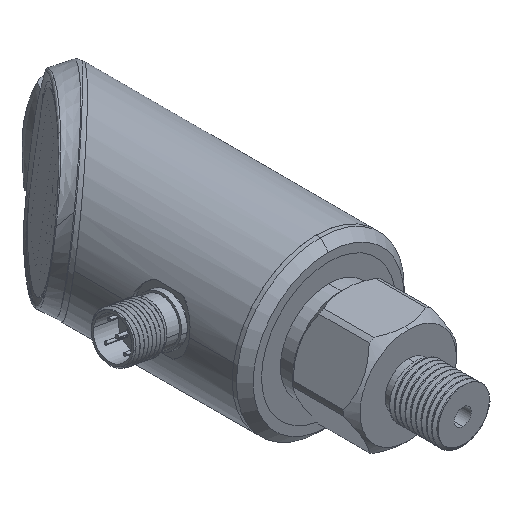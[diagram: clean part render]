
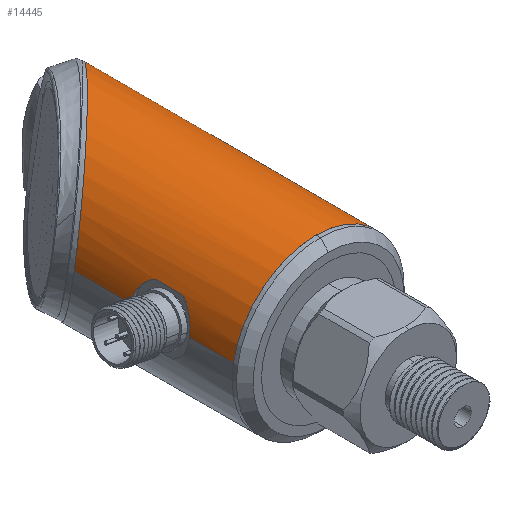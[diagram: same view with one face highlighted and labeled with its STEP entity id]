
A CAD part, isometric view. The second image highlights one B-rep face of the part: STEP entity #14445.
In plain terms, the highlighted cylindrical face has radius 20 mm (diameter 40 mm), a partial arc.
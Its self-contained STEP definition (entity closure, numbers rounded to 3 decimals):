
#92 = CARTESIAN_POINT ( 'NONE',  ( 19.685, 59., -42.45 ) ) ;
#146 = EDGE_CURVE ( 'NONE', #11824, #15104, #11581, .T. ) ;
#189 = DIRECTION ( 'NONE',  ( 0., 1., 0. ) ) ;
#226 = CARTESIAN_POINT ( 'NONE',  ( -19.716, 69.5, -35.55 ) ) ;
#707 = CARTESIAN_POINT ( 'NONE',  ( -19.453, 69.614, -34.278 ) ) ;
#977 = CARTESIAN_POINT ( 'NONE',  ( -17.975, 80.772, -30.189 ) ) ;
#1428 = CARTESIAN_POINT ( 'NONE',  ( 19.685, 137., -42.45 ) ) ;
#1679 = CARTESIAN_POINT ( 'NONE',  ( -19.716, 59., -35.55 ) ) ;
#2014 = EDGE_CURVE ( 'NONE', #17175, #11836, #4613, .T. ) ;
#2281 = ORIENTED_EDGE ( 'NONE', *, *, #146, .T. ) ;
#2362 = B_SPLINE_CURVE_WITH_KNOTS ( 'NONE', 3,
 ( #18230, #12271, #10936, #18322, #9478, #6406, #16698, #13910, #7942, #13812, #16788, #18039, #707, #5151, #6504, #11029 ),
 .UNSPECIFIED., .F., .F.,
 ( 4, 2, 2, 2, 2, 2, 2, 4 ),
 ( 0., 0.002, 0.003, 0.004, 0.005, 0.006, 0.007, 0.008 ),
 .UNSPECIFIED. ) ;
#2512 = CARTESIAN_POINT ( 'NONE',  ( -19.603, 83.5, -34.905 ) ) ;
#2602 = CARTESIAN_POINT ( 'NONE',  ( -19.716, 83.5, -35.55 ) ) ;
#2697 = CARTESIAN_POINT ( 'NONE',  ( -18.938, 82.774, -32.517 ) ) ;
#2736 = VERTEX_POINT ( 'NONE', #18830 ) ;
#2745 = VECTOR ( 'NONE', #6448, 1000. ) ;
#2824 = DIRECTION ( 'NONE',  ( 0., 1., 0. ) ) ;
#3468 = EDGE_CURVE ( 'NONE', #15104, #11836, #2362, .T. ) ;
#3968 = CARTESIAN_POINT ( 'NONE',  ( -19.212, 83.144, -33.378 ) ) ;
#3986 = ORIENTED_EDGE ( 'NONE', *, *, #8908, .F. ) ;
#4072 = CARTESIAN_POINT ( 'NONE',  ( 19.685, 137., -42.45 ) ) ;
#4184 = DIRECTION ( 'NONE',  ( -0.985, 0., 0.172 ) ) ;
#4334 = CARTESIAN_POINT ( 'NONE',  ( -19.716, 114.234, -35.55 ) ) ;
#4527 = DIRECTION ( 'NONE',  ( -0.985, 0., 0.172 ) ) ;
#4571 = VECTOR ( 'NONE', #10206, 1000. ) ;
#4613 = LINE ( 'NONE', #4334, #4571 ) ;
#4616 = CARTESIAN_POINT ( 'NONE',  ( 26.584, 137., -3.049 ) ) ;
#5001 = ORIENTED_EDGE ( 'NONE', *, *, #16051, .T. ) ;
#5151 = CARTESIAN_POINT ( 'NONE',  ( -19.595, 69.523, -34.905 ) ) ;
#5991 = LINE ( 'NONE', #7623, #18029 ) ;
#6100 = CIRCLE ( 'NONE', #13780, 20. ) ;
#6406 = CARTESIAN_POINT ( 'NONE',  ( -18.549, 70.901, -31.477 ) ) ;
#6448 = DIRECTION ( 'NONE',  ( 0., 1., 0. ) ) ;
#6454 = ORIENTED_EDGE ( 'NONE', *, *, #8776, .T. ) ;
#6504 = CARTESIAN_POINT ( 'NONE',  ( -19.659, 69.5, -35.227 ) ) ;
#6889 = EDGE_CURVE ( 'NONE', #11950, #2736, #14687, .T. ) ;
#7149 = CARTESIAN_POINT ( 'NONE',  ( -18.843, 82.625, -32.247 ) ) ;
#7324 = CARTESIAN_POINT ( 'NONE',  ( -12.816, 97., 3.85 ) ) ;
#7327 = CYLINDRICAL_SURFACE ( 'NONE', #7654, 20. ) ;
#7623 = CARTESIAN_POINT ( 'NONE',  ( -19.716, 114.234, -35.55 ) ) ;
#7654 = AXIS2_PLACEMENT_3D ( 'NONE', #15890, #17610, #4527 ) ;
#7942 = CARTESIAN_POINT ( 'NONE',  ( -18.936, 70.229, -32.511 ) ) ;
#7943 = VERTEX_POINT ( 'NONE', #92 ) ;
#8688 = CARTESIAN_POINT ( 'NONE',  ( -18.549, 82.101, -31.479 ) ) ;
#8776 = EDGE_CURVE ( 'NONE', #14537, #11824, #13263, .T. ) ;
#8908 = EDGE_CURVE ( 'NONE', #14537, #2736, #5991, .T. ) ;
#9478 = CARTESIAN_POINT ( 'NONE',  ( -18.353, 71.308, -31.011 ) ) ;
#10129 = CARTESIAN_POINT ( 'NONE',  ( -19.122, 83.033, -33.081 ) ) ;
#10206 = DIRECTION ( 'NONE',  ( 0., 1., 0. ) ) ;
#10780 = LINE ( 'NONE', #16639, #2745 ) ;
#10936 = CARTESIAN_POINT ( 'NONE',  ( -17.972, 72.237, -30.182 ) ) ;
#11029 = CARTESIAN_POINT ( 'NONE',  ( -19.716, 69.5, -35.55 ) ) ;
#11154 = ORIENTED_EDGE ( 'NONE', *, *, #2014, .F. ) ;
#11381 = CARTESIAN_POINT ( 'NONE',  ( -19.461, 83.41, -34.282 ) ) ;
#11382 = EDGE_CURVE ( 'NONE', #7943, #11950, #10780, .T. ) ;
#11581 = LINE ( 'NONE', #14577, #16247 ) ;
#11824 = VERTEX_POINT ( 'NONE', #16407 ) ;
#11835 = FACE_OUTER_BOUND ( 'NONE', #19004, .T. ) ;
#11836 = VERTEX_POINT ( 'NONE', #226 ) ;
#11950 = VERTEX_POINT ( 'NONE', #4072 ) ;
#12105 = CARTESIAN_POINT ( 'NONE',  ( -17.654, 73.338, -29.571 ) ) ;
#12271 = CARTESIAN_POINT ( 'NONE',  ( -17.799, 72.76, -29.843 ) ) ;
#13188 = CARTESIAN_POINT ( 'NONE',  ( -19.716, 97., -35.55 ) ) ;
#13263 = B_SPLINE_CURVE_WITH_KNOTS ( 'NONE', 3,
 ( #2602, #2512, #11381, #3968, #10129, #2697, #7149, #15997, #8688, #17158, #14554, #977, #14275, #18783 ),
 .UNSPECIFIED., .F., .F.,
 ( 4, 2, 2, 2, 2, 2, 4 ),
 ( 0., 0.002, 0.003, 0.004, 0.005, 0.006, 0.008 ),
 .UNSPECIFIED. ) ;
#13780 = AXIS2_PLACEMENT_3D ( 'NONE', #16024, #2824, #4184 ) ;
#13812 = CARTESIAN_POINT ( 'NONE',  ( -19.122, 69.967, -33.082 ) ) ;
#13910 = CARTESIAN_POINT ( 'NONE',  ( -18.84, 70.38, -32.239 ) ) ;
#14275 = CARTESIAN_POINT ( 'NONE',  ( -17.799, 80.24, -29.843 ) ) ;
#14445 = ADVANCED_FACE ( 'NONE', ( #11835 ), #7327, .T. ) ;
#14537 = VERTEX_POINT ( 'NONE', #18774 ) ;
#14554 = CARTESIAN_POINT ( 'NONE',  ( -18.256, 81.473, -30.795 ) ) ;
#14577 = CARTESIAN_POINT ( 'NONE',  ( -17.654, 114.234, -29.571 ) ) ;
#14687 =( BOUNDED_CURVE ( )  B_SPLINE_CURVE ( 3, ( #1428, #4616, #7324, #13188 ),
 .UNSPECIFIED., .F., .F. ) 
 B_SPLINE_CURVE_WITH_KNOTS ( ( 4, 4 ),
 ( 0., 3.142 ),
 .UNSPECIFIED. ) 
 CURVE ( )  GEOMETRIC_REPRESENTATION_ITEM ( )  RATIONAL_B_SPLINE_CURVE ( ( 1., 0.333, 0.333, 1. ) ) 
 REPRESENTATION_ITEM ( '' )  );
#15104 = VERTEX_POINT ( 'NONE', #12105 ) ;
#15890 = CARTESIAN_POINT ( 'NONE',  ( -0.016, 114.234, -39. ) ) ;
#15997 = CARTESIAN_POINT ( 'NONE',  ( -18.649, 82.289, -31.729 ) ) ;
#16024 = CARTESIAN_POINT ( 'NONE',  ( -0.016, 59., -39. ) ) ;
#16031 = ORIENTED_EDGE ( 'NONE', *, *, #6889, .T. ) ;
#16051 = EDGE_CURVE ( 'NONE', #17175, #7943, #6100, .T. ) ;
#16072 = ORIENTED_EDGE ( 'NONE', *, *, #11382, .T. ) ;
#16247 = VECTOR ( 'NONE', #17452, 1000. ) ;
#16407 = CARTESIAN_POINT ( 'NONE',  ( -17.654, 79.662, -29.571 ) ) ;
#16639 = CARTESIAN_POINT ( 'NONE',  ( 19.685, 114.234, -42.45 ) ) ;
#16698 = CARTESIAN_POINT ( 'NONE',  ( -18.647, 70.715, -31.723 ) ) ;
#16788 = CARTESIAN_POINT ( 'NONE',  ( -19.21, 69.857, -33.374 ) ) ;
#17158 = CARTESIAN_POINT ( 'NONE',  ( -18.353, 81.692, -31.012 ) ) ;
#17175 = VERTEX_POINT ( 'NONE', #1679 ) ;
#17452 = DIRECTION ( 'NONE',  ( 0., -1., 0. ) ) ;
#17610 = DIRECTION ( 'NONE',  ( 0., 1., 0. ) ) ;
#18029 = VECTOR ( 'NONE', #189, 1000. ) ;
#18039 = CARTESIAN_POINT ( 'NONE',  ( -19.376, 69.681, -33.972 ) ) ;
#18230 = CARTESIAN_POINT ( 'NONE',  ( -17.654, 73.338, -29.571 ) ) ;
#18322 = CARTESIAN_POINT ( 'NONE',  ( -18.254, 71.531, -30.79 ) ) ;
#18708 = ORIENTED_EDGE ( 'NONE', *, *, #3468, .T. ) ;
#18774 = CARTESIAN_POINT ( 'NONE',  ( -19.716, 83.5, -35.55 ) ) ;
#18783 = CARTESIAN_POINT ( 'NONE',  ( -17.654, 79.662, -29.571 ) ) ;
#18830 = CARTESIAN_POINT ( 'NONE',  ( -19.716, 97., -35.55 ) ) ;
#19004 = EDGE_LOOP ( 'NONE', ( #5001, #16072, #16031, #3986, #6454, #2281, #18708, #11154 ) ) ;
